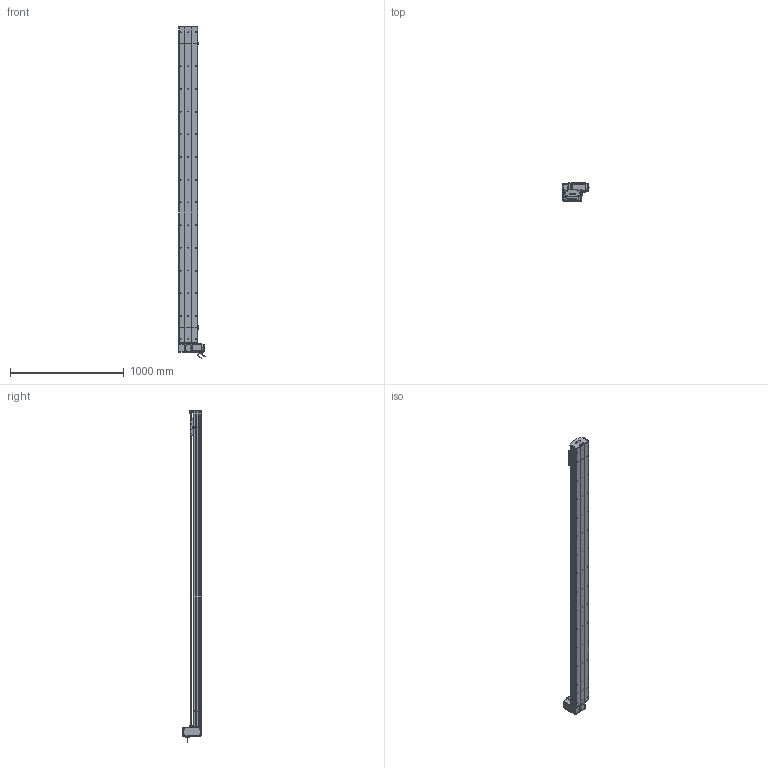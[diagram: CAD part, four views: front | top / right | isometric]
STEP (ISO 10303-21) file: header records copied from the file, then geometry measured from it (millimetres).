
FILE_DESCRIPTION (( 'STEP AP214' ), '1' );
FILE_NAME ('D17 TBH RT S2500.STEP', '2010-06-30T08:45:04', ( 'Christophe Gaillard' ), ( 'SGA' ), 'SwSTEP 2.0', 'SolidWorks 2010', '' );
FILE_SCHEMA (( 'AUTOMOTIVE_DESIGN' ));
Length unit declared in the file: millimetre
Products named in the file (40): Conecteur2_Default; Moteur motionking 90BLDC125A-640; course 2500 D17B_Default; couroie head D17_Default; D17 TBH RT S2500; Couroie+ rail D17 Course 2500 ; poulie head_Default; vis M5 L5_Default; couvercle D17B course L2500_Default; corp D17B 2500_Default; codeur 90BLDC125-640; cache D17_Default; Arbre+rail head D17B; plaque de  bout head D17B RT_Default; avant 90BLDC125A-640; couvercle D17B head_Default; corpl head D17 _Default; Head RT D17B_Default; corps 90BLDC125A-640; Plaque racord D17_Default; vis M5 L70_Default; Conecteur_Default; Renvoi RT_Default; cache arbre D17_Default; Vis M5 L16-2_Default; vis M5 L16_Default; corp tail D17B+100_Default; Tail D17B+100_Default; poulie tail_Default; plaque de  bout tail D17B_Default; Rail D17B; tete d''axe poulie D17B; vis M5 L8 90°_Default; couvercle D17B_Default; Couroie tail D17B_Default; Chariot D17; chariot D17S_Default; vis M5 L25_Default; vis M5 L12_Default; guide D17
Assembly tree (70 placements, depth 4):
  D17 TBH RT S2500
    Head RT D17B_Default
      vis M5 L70_Default  x4
      Vis M5 L16-2_Default  x4
      vis M5 L12_Default  x8
      Renvoi RT_Default
      vis M5 L25_Default  x2
      vis M5 L5_Default  x4
      couroie head D17_Default
      cache D17_Default  x2
      Plaque racord D17_Default
      plaque de  bout head D17B RT_Default
      couvercle D17B head_Default
      corpl head D17 _Default
      Moteur motionking 90BLDC125A-640
        Conecteur2_Default
        avant 90BLDC125A-640
        corps 90BLDC125A-640
        Conecteur_Default
        codeur 90BLDC125-640
      cache arbre D17_Default
      vis M5 L16_Default  x2
      poulie head_Default
      Arbre+rail head D17B
    course 2500 D17B_Default
      couvercle D17B course L2500_Default
      corp D17B 2500_Default
      Couroie+ rail D17 Course 2500 
    chariot D17S_Default
      guide D17  x2
      vis M5 L12_Default  x4
      Chariot D17
    Tail D17B+100_Default
      vis M5 L25_Default  x2
      vis M5 L12_Default  x4
      vis M5 L8 90°_Default  x2
      plaque de  bout tail D17B_Default
      Rail D17B
      tete d''axe poulie D17B
      corp tail D17B+100_Default
      Couroie tail D17B_Default
      couvercle D17B_Default
      poulie tail_Default
Bounding box: 245.2 x 166.15 x 2923.95 mm (x, y, z)
Volume: 16906443.9 mm3; surface area: 4897271 mm2
Topology: 94 solids, 94 shells, 2753 faces, 7015 edges, 4514 vertices
Faces by surface type: plane 1611, cylinder 829, bspline 136, cone 88, torus 85, sphere 4
Entity records: 86986 total; most frequent: CARTESIAN_POINT 25531, ORIENTED_EDGE 10802, DIRECTION 10230, EDGE_CURVE 5401, VERTEX_POINT 3538, VECTOR 3536, LINE 3536, AXIS2_PLACEMENT_3D 3347
